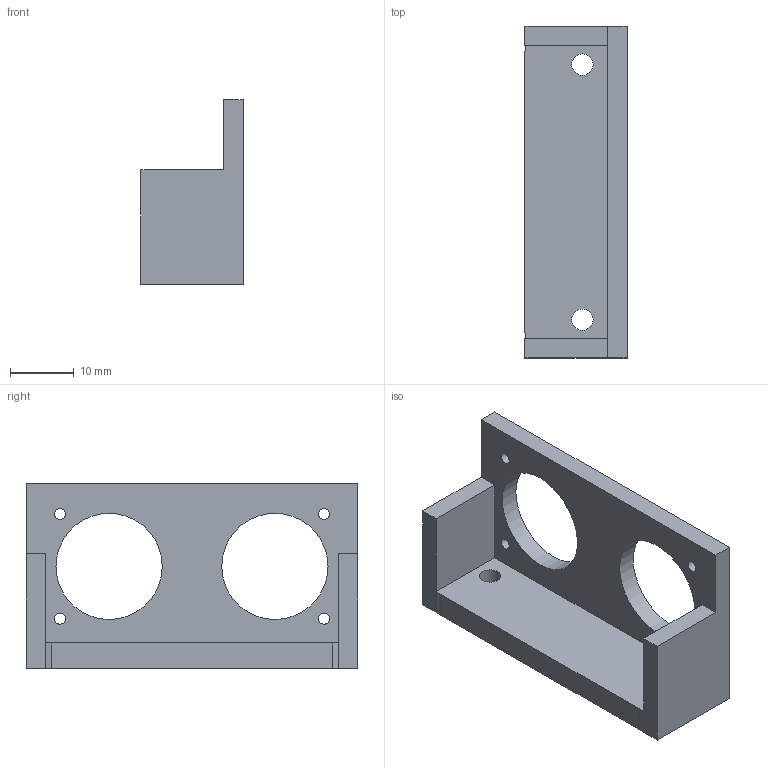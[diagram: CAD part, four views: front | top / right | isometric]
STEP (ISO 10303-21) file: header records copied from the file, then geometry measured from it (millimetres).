
FILE_DESCRIPTION(('Open CASCADE Model'),'2;1');
FILE_NAME('Open CASCADE Shape Model','2026-11-06T05:35:52',('Author'),( 'Open CASCADE'),'Open CASCADE STEP processor 8.0','Open CASCADE 8.0' ,'Unknown');
FILE_SCHEMA(('AUTOMOTIVE_DESIGN { 1 0 10303 214 1 1 1 1 }'));
Length unit declared in the file: millimetre
Products named in the file (1): Open CASCADE STEP translator 8.0 2
Bounding box: 16 x 52 x 29 mm (x, y, z)
Volume: 6913.9 mm3; surface area: 5225.5 mm2
Topology: 1 solids, 1 shells, 24 faces, 66 edges, 44 vertices
Faces by surface type: plane 14, cylinder 10
Full cylindrical faces by diameter (mm): 1.75 x4, 3.35 x2, 16.65 x2
Entity records: 1666 total; most frequent: CARTESIAN_POINT 289, DIRECTION 256, LINE 148, VECTOR 148, ORIENTED_EDGE 132, PCURVE 132, DEFINITIONAL_REPRESENTATION 132, EDGE_CURVE 66
